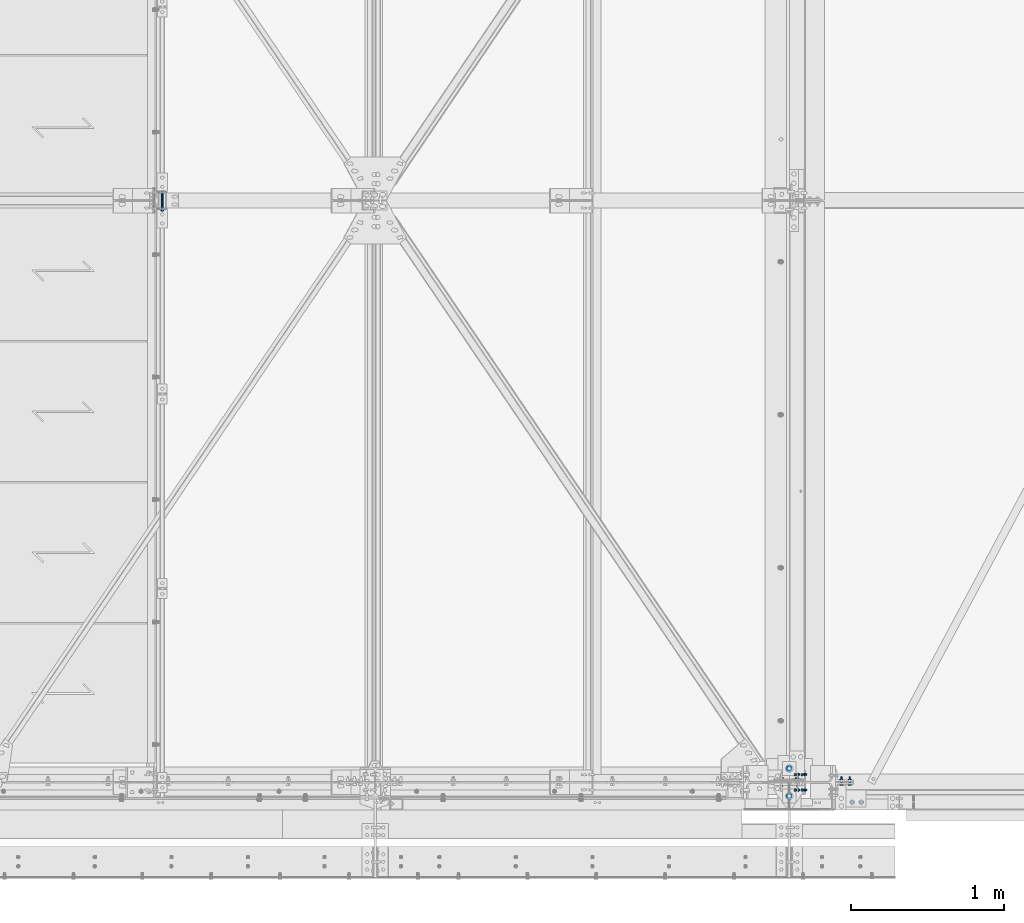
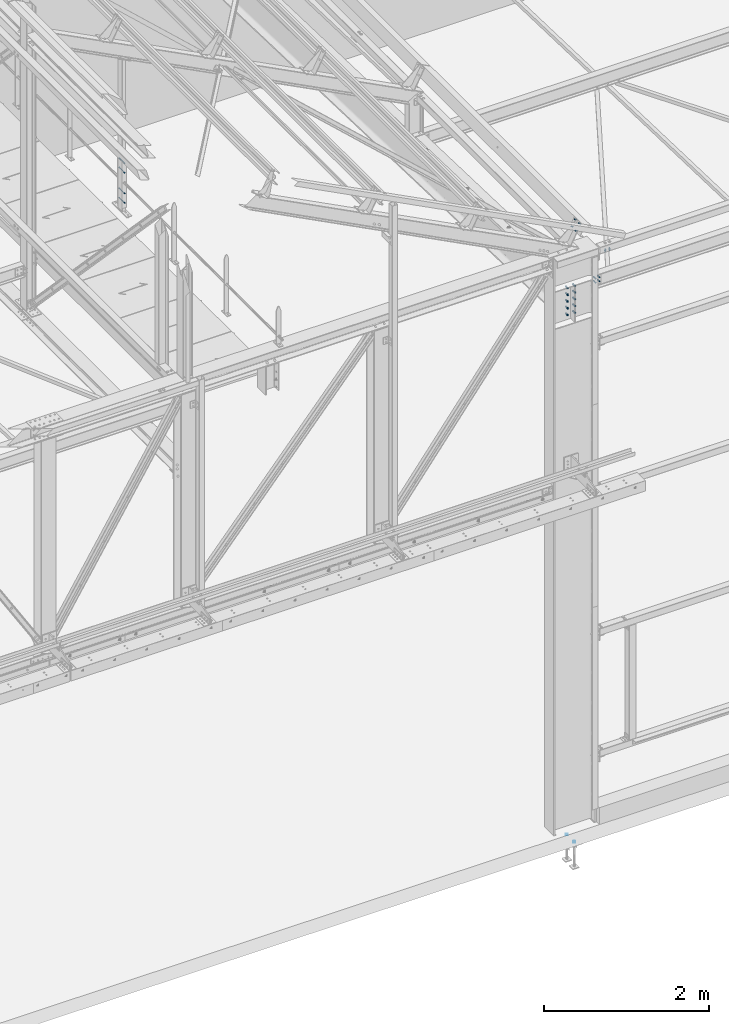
# One storey, part 167 of 362: 7 mechanical fasteners.
"""IFC2X3 building model written with IfcOpenShell, lengths in millimetres."""

from ifc_helpers import new_model, si_unit, frame, frame_2d, origin_with_axes, origin_2d_with_axis, place, context, subcontext, project, spatial, polyline, circle_curve, parameter, trimmed, segment, composite_curve, circle, outline, extrude, source, transform, mapped, material, type_object, element, save


model = new_model("IFC2X3")

# Units and contexts
model_context = context("Model", 3, precision=1e-05, world=origin_with_axes())
body_context = subcontext(model_context, "Body", "Model", "MODEL_VIEW")
ifc_project = project(units=[si_unit("LENGTHUNIT", "METRE", prefix="MILLI"), si_unit("AREAUNIT", "SQUARE_METRE"), si_unit("VOLUMEUNIT", "CUBIC_METRE"), si_unit("MASSUNIT", "GRAM", prefix="KILO"), si_unit("TIMEUNIT", "SECOND"), si_unit("PLANEANGLEUNIT", "RADIAN"), si_unit("SOLIDANGLEUNIT", "STERADIAN"), si_unit("THERMODYNAMICTEMPERATUREUNIT", "DEGREE_CELSIUS"), si_unit("LUMINOUSINTENSITYUNIT", "LUMEN")], contexts=[model_context])

# Site, building, storey
site_placement = place(None, origin_with_axes())
site = spatial("IfcSite", under=ifc_project, at=site_placement, Name="Undefined", CompositionType="ELEMENT")
building_placement = place(site_placement, origin_with_axes())
building = spatial("IfcBuilding", under=site, at=building_placement, Name="Undefined", CompositionType="ELEMENT")
storey_placement = place(building_placement, origin_with_axes())
storey = spatial("IfcBuildingStorey", under=building, at=storey_placement, Name="Undefined", CompositionType="ELEMENT", Elevation=0.0)

# Mechanical fasteners
ifc_material_1 = material(Name="8.8-SB-ZINGUE")
mechanical_fastener_type = type_object("IfcMechanicalFastenerType", Name="Bolt assembly")
shared_shape_1 = source(origin_with_axes(), body_context, "Body", "SweptSolid", [
    extrude(circle(Radius=7.0, at=origin_2d_with_axis()), frame((0.0, -0.100011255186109, 0.0), z_axis=(0.0, 1.0, 0.0), x_axis=(1.0, 0.0, 0.0)), (0.0, 0.0, 1.0), 3.1),
    extrude(circle(Radius=7.0, at=origin_2d_with_axis()), frame((0.0, -9.9, 0.0), z_axis=(0.0, 1.0, 0.0), x_axis=(1.0, 0.0, 0.0)), (0.0, 0.0, 1.0), 10.0),
    extrude(outline(polyline([(10.39230484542, 0.0), (5.19615242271, 9.00000000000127), (-5.19615242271, 9.00000000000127), (-10.39230484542, 0.0), (-5.19615242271, -9.00000000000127), (5.19615242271, -9.00000000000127), (10.39230484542, 0.0)])), frame((0.0, -17.92, 0.0), z_axis=(0.0, 1.0, 0.0), x_axis=(1.0, 0.0, 0.0)), (0.0, 0.0, 1.0), 7.92),
    extrude(circle(Radius=6.0, at=origin_2d_with_axis()), frame((0.0, -10.0000010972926, 0.0), z_axis=(0.0, 1.0, 0.0), x_axis=(1.0, 0.0, 0.0)), (0.0, 0.0, 1.0), 30.0),
    extrude(outline(polyline([(11.5008173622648, 0.0), (5.7504086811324, 9.96000000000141), (-5.7504086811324, 9.96000000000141), (-11.5008173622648, 0.0), (-5.7504086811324, -9.96000000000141), (5.7504086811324, -9.96000000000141), (11.5008173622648, 0.0)])), frame((0.0, 3.00000067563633, 0.0), z_axis=(0.0, 1.0, 0.0), x_axis=(1.0, 0.0, 0.0)), (0.0, 0.0, 1.0), 7.92),
])
mechanical_fastener_1_placement = place(storey_placement, frame((28930.4869602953, 5.9655603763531e-05, 8812.17853882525), z_axis=(0.0, 1.0, 0.0), x_axis=(0.460093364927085, 0.0, 0.887870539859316)))
element("IfcMechanicalFastener", 1, at=mechanical_fastener_1_placement, inside=storey, type_object=mechanical_fastener_type, material=ifc_material_1, Name="Bolt assembly", NominalDiameter=12.0, NominalLength=30.0, context=body_context, shape_type="MappedRepresentation", body=[
    mapped(shared_shape_1, transform((0.0, 0.0, -50.0))),
    mapped(shared_shape_1, transform((100.0, 0.0, -50.0))),
    mapped(shared_shape_1, transform((0.0, 0.0, 50.0))),
    mapped(shared_shape_1, transform((100.0, 0.0, 50.0))),
])
shared_shape_2 = source(origin_with_axes(), body_context, "Body", "SweptSolid", [
    extrude(circle(Radius=9.0, at=origin_2d_with_axis()), frame((0.0, -0.100011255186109, 0.0), z_axis=(0.0, 1.0, 0.0), x_axis=(1.0, 0.0, 0.0)), (0.0, 0.0, 1.0), 12.1),
    extrude(circle(Radius=9.0, at=origin_2d_with_axis()), frame((0.0, -14.899999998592, 0.0), z_axis=(0.0, 1.0, 0.0), x_axis=(1.0, 0.0, 0.0)), (0.0, 0.0, 1.0), 15.0),
    extrude(outline(polyline([(13.85640646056, 0.0), (6.92820323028, 12.0000000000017), (-6.92820323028, 12.0000000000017), (-13.85640646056, 0.0), (-6.92820323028, -12.0000000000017), (6.92820323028, -12.0000000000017), (13.85640646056, 0.0)])), frame((0.0, -25.56, 0.0), z_axis=(0.0, 1.0, 0.0), x_axis=(1.0, 0.0, 0.0)), (0.0, 0.0, 1.0), 10.56),
    extrude(circle(Radius=8.0, at=origin_2d_with_axis()), frame((0.0, -14.999999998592, 0.0), z_axis=(0.0, 1.0, 0.0), x_axis=(1.0, 0.0, 0.0)), (0.0, 0.0, 1.0), 50.0),
    extrude(outline(polyline([(15.3344231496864, 0.0), (7.6672115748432, 13.2800000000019), (-7.6672115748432, 13.2800000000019), (-15.3344231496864, 0.0), (-7.6672115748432, -13.2800000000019), (7.6672115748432, -13.2800000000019), (15.3344231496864, 0.0)])), frame((0.0, 12.0000270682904, 0.0), z_axis=(0.0, 1.0, 0.0), x_axis=(1.0, 0.0, 0.0)), (0.0, 0.0, 1.0), 10.56),
])
mechanical_fastener_2_placement = place(storey_placement, frame((28880.0, 6.0, 7974.34004841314), z_axis=(-1.0, 0.0, 0.0), x_axis=(0.0, 0.0, -1.0)))
element("IfcMechanicalFastener", 2, at=mechanical_fastener_2_placement, inside=storey, type_object=mechanical_fastener_type, material=ifc_material_1, Name="Bolt assembly", NominalDiameter=16.0, NominalLength=50.0, context=body_context, shape_type="MappedRepresentation", body=[
    mapped(shared_shape_2, transform((0.0, 0.0, -50.0))),
    mapped(shared_shape_2, transform((100.0, 0.0, -50.0))),
    mapped(shared_shape_2, transform((200.0, 0.0, -50.0))),
    mapped(shared_shape_2, transform((300.0, 0.0, -50.0))),
    mapped(shared_shape_2, transform((400.0, 0.0, -50.0))),
    mapped(shared_shape_2, transform((0.0, 0.0, 50.0))),
    mapped(shared_shape_2, transform((100.0, 0.0, 50.0))),
    mapped(shared_shape_2, transform((200.0, 0.0, 50.0))),
    mapped(shared_shape_2, transform((300.0, 0.0, 50.0))),
    mapped(shared_shape_2, transform((400.0, 0.0, 50.0))),
])
ifc_material_2 = material(Name="6.8")
shared_shape_3 = source(origin_with_axes(), body_context, "Body", "SweptSolid", [
    extrude(circle(Radius=7.0, at=origin_2d_with_axis()), frame((0.0, -49.9999938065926, 0.0), z_axis=(0.0, 1.0, 0.0), x_axis=(1.0, 0.0, 0.0)), (0.0, 0.0, 1.0), 100.0),
    extrude(circle(Radius=7.0, at=origin_2d_with_axis()), frame((0.0, -57.3998951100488, 0.0), z_axis=(0.0, 1.0, 0.0), x_axis=(1.0, 0.0, 0.0)), (0.0, 0.0, 1.0), 5.0),
    extrude(circle(Radius=7.0, at=origin_2d_with_axis()), frame((0.0, 52.4001048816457, 0.0), z_axis=(0.0, 1.0, 0.0), x_axis=(1.0, 0.0, 0.0)), (0.0, 0.0, 1.0), 5.1),
    extrude(outline(polyline([(10.96965511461, 0.0), (5.484827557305, 9.50000000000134), (-5.484827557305, 9.50000000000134), (-10.96965511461, 0.0), (-5.484827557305, -9.50000000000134), (5.484827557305, -9.50000000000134), (10.96965511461, 0.0)])), frame((0.0, -65.4998951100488, 0.0), z_axis=(0.0, 1.0, 0.0), x_axis=(1.0, 0.0, 0.0)), (0.0, 0.0, 1.0), 8.0),
    extrude(circle(Radius=6.0, at=origin_2d_with_axis()), frame((0.0, -57.4998951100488, 0.0), z_axis=(0.0, 1.0, 0.0), x_axis=(1.0, 0.0, 0.0)), (0.0, 0.0, 1.0), 130.0),
    extrude(outline(polyline([(10.39230484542, 0.0), (5.19615242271, 9.00000000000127), (-5.19615242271, 9.00000000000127), (-10.39230484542, 0.0), (-5.19615242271, -9.00000000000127), (5.19615242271, -9.00000000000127), (10.39230484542, 0.0)])), frame((0.0, 57.5001048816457, 0.0), z_axis=(0.0, 1.0, 0.0), x_axis=(1.0, 0.0, 0.0)), (0.0, 0.0, 1.0), 10.8),
])
for number, where, z_axis, x_axis, name in (
    (3, (24783.9916006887, 3800.00010635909, 8450.17500705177), (0.0, 0.0, 1.0), (-1.0, 0.0, 0.0), "Bolt assembly"),
    (4, (24783.9916006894, 3800.00010669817, 8897.42500405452), (0.0, 0.0, 1.0), (-1.0, 0.0, 0.0), "Bolt assembly"),
):
    element("IfcMechanicalFastener", number, at=place(storey_placement, frame(where, z_axis=z_axis, x_axis=x_axis)), inside=storey, type_object=mechanical_fastener_type, material=ifc_material_2, Name=name, NominalDiameter=12.0, NominalLength=130.0, context=body_context, shape_type="MappedRepresentation", body=[
        mapped(shared_shape_3, transform((0.0, 6.3664629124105e-11, -70.0))),
        mapped(shared_shape_3, transform((0.0, -6.3664629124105e-11, 70.0))),
    ])
shared_shape_4 = source(origin_with_axes(), body_context, "Body", "SweptSolid", [
    extrude(circle(Radius=7.0, at=origin_2d_with_axis()), frame((0.0, -3.90127693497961, 0.0), z_axis=(0.0, 1.0, 0.0), x_axis=(1.0, 0.0, 0.0)), (0.0, 0.0, 1.0), 4.0),
    extrude(outline(composite_curve([segment(polyline([(-7.0, 7.0), (7.0, 7.0)]), True, "CONTINUOUS"), segment(trimmed(circle_curve(frame_2d((7.0, 0.0), x_axis=(0.0, 1.0)), 7.0), [parameter(0.0)], [parameter(3.14159265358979)], False, "PARAMETER"), True, "CONTINUOUS"), segment(polyline([(7.0, -7.0), (-7.0, -7.0)]), True, "CONTINUOUS"), segment(trimmed(circle_curve(frame_2d((-7.0, 0.0), x_axis=(0.0, -1.0)), 7.0), [parameter(0.0)], [parameter(3.14159265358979)], False, "PARAMETER"), True, "DISCONTINUOUS")], self_intersect=False)), frame((0.0, -0.100011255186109, 0.0), z_axis=(0.0, 1.0, 0.0), x_axis=(1.0, 0.0, 0.0)), (0.0, 0.0, 1.0), 10.1),
    extrude(outline(polyline([(10.39230484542, 0.0), (5.19615242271, 9.00000000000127), (-5.19615242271, 9.00000000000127), (-10.39230484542, 0.0), (-5.19615242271, -9.00000000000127), (5.19615242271, -9.00000000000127), (10.39230484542, 0.0)])), frame((0.0, -11.9212769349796, 0.0), z_axis=(0.0, 1.0, 0.0), x_axis=(1.0, 0.0, 0.0)), (0.0, 0.0, 1.0), 7.92),
    extrude(circle(Radius=6.0, at=origin_2d_with_axis()), frame((0.0, -4.00127693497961, 0.0), z_axis=(0.0, 1.0, 0.0), x_axis=(1.0, 0.0, 0.0)), (0.0, 0.0, 1.0), 40.0),
    extrude(circle(Radius=10.8, at=origin_2d_with_axis()), frame((0.0, 10.0000000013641, 0.0), z_axis=(0.0, 1.0, 0.0), x_axis=(1.0, 0.0, 0.0)), (0.0, 0.0, 1.0), 3.96),
    extrude(outline(polyline([(11.5008173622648, 0.0), (5.7504086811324, 9.96000000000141), (-5.7504086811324, 9.96000000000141), (-11.5008173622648, 0.0), (-5.7504086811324, -9.96000000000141), (5.7504086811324, -9.96000000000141), (11.5008173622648, 0.0)])), frame((0.0, 13.96, 0.0), z_axis=(0.0, 1.0, 0.0), x_axis=(1.0, 0.0, 0.0)), (0.0, 0.0, 1.0), 7.92),
])
mechanical_fastener_3_placement = place(storey_placement, frame((29349.9919502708, -130.000005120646, 8449.99872306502), z_axis=(0.0, -1.0, 0.0), x_axis=(-1.0, 0.0, 0.0)))
element("IfcMechanicalFastener", 5, at=mechanical_fastener_3_placement, inside=storey, type_object=mechanical_fastener_type, material=ifc_material_1, Name="Bolt assembly", NominalDiameter=12.0, NominalLength=40.0, context=body_context, shape_type="MappedRepresentation", body=[
    mapped(shared_shape_4, transform((0.0, 0.0, 0.0))),
    mapped(shared_shape_4, transform((60.0, 0.0, 0.0))),
])
shared_shape_5 = source(origin_with_axes(), body_context, "Body", "SweptSolid", [
    extrude(circle(Radius=7.0, at=origin_2d_with_axis()), frame((0.0, -2.79781492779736, 0.0), z_axis=(0.0, 1.0, 0.0), x_axis=(1.0, 0.0, 0.0)), (0.0, 0.0, 1.0), 5.6),
    extrude(circle(Radius=7.0, at=origin_2d_with_axis()), frame((0.0, -12.9001594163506, 0.0), z_axis=(0.0, 1.0, 0.0), x_axis=(1.0, 0.0, 0.0)), (0.0, 0.0, 1.0), 10.0),
    extrude(circle(Radius=7.0, at=origin_2d_with_axis()), frame((0.0, 2.90070287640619, 0.0), z_axis=(0.0, 1.0, 0.0), x_axis=(1.0, 0.0, 0.0)), (0.0, 0.0, 1.0), 10.1),
    extrude(outline(polyline([(10.39230484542, 0.0), (5.19615242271, 9.00000000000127), (-5.19615242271, 9.00000000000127), (-10.39230484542, 0.0), (-5.19615242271, -9.00000000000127), (5.19615242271, -9.00000000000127), (10.39230484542, 0.0)])), frame((0.0, -20.9201594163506, 0.0), z_axis=(0.0, 1.0, 0.0), x_axis=(1.0, 0.0, 0.0)), (0.0, 0.0, 1.0), 7.92),
    extrude(circle(Radius=6.0, at=origin_2d_with_axis()), frame((0.0, -13.0001594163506, 0.0), z_axis=(0.0, 1.0, 0.0), x_axis=(1.0, 0.0, 0.0)), (0.0, 0.0, 1.0), 50.0),
    extrude(outline(polyline([(11.5008173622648, 0.0), (5.7504086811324, 9.96000000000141), (-5.7504086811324, 9.96000000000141), (-11.5008173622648, 0.0), (-5.7504086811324, -9.96000000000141), (5.7504086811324, -9.96000000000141), (11.5008173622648, 0.0)])), frame((0.0, 13.0007028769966, 0.0), z_axis=(0.0, 1.0, 0.0), x_axis=(1.0, 0.0, 0.0)), (0.0, 0.0, 1.0), 7.92),
])
mechanical_fastener_4_placement = place(storey_placement, frame((29275.0021442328, -0.00212127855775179, 7949.95412905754), z_axis=(-1.05403257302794e-09, -0.0314112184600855, -0.999506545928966), x_axis=(-0.999999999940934, -1.08559999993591e-05, 5.2799999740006e-07)))
element("IfcMechanicalFastener", 6, at=mechanical_fastener_4_placement, inside=storey, type_object=mechanical_fastener_type, material=ifc_material_1, Name="Bolt assembly", NominalDiameter=12.0, NominalLength=50.0, context=body_context, shape_type="MappedRepresentation", body=[
    mapped(shared_shape_5, transform((0.0, 0.0, 30.0))),
    mapped(shared_shape_5, transform((54.9999999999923, 3.45607986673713e-11, 29.9999999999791))),
    mapped(shared_shape_5, transform((0.0, 0.0, -30.0))),
    mapped(shared_shape_5, transform((55.0000000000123, 3.45607986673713e-11, -30.0000000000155))),
])
shared_shape_6 = source(origin_with_axes(), body_context, "Body", "SweptSolid", [
    extrude(circle(Radius=13.0, at=origin_2d_with_axis()), frame((0.0, 0.0, 0.0), z_axis=(0.0, 1.0, 0.0), x_axis=(1.0, 0.0, 0.0)), (0.0, 0.0, 1.0), 10.1),
])
mechanical_fastener_5_placement = place(storey_placement, frame((28880.0, 7.34107743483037e-08, -200.0), z_axis=(0.0, -1.0, 0.0), x_axis=(-1.0, 0.0, 0.0)))
element("IfcMechanicalFastener", 7, at=mechanical_fastener_5_placement, inside=storey, type_object=mechanical_fastener_type, material=ifc_material_2, Name="Bolt assembly", NominalDiameter=24.0, NominalLength=10.0, context=body_context, shape_type="MappedRepresentation", body=[
    mapped(shared_shape_6, transform((-8.00355337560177e-11, 1.57342583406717e-10, -90.000000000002))),
    mapped(shared_shape_6, transform((8.36735125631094e-11, -1.5825207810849e-10, 90.0))),
])

save(model, "model.ifc")
